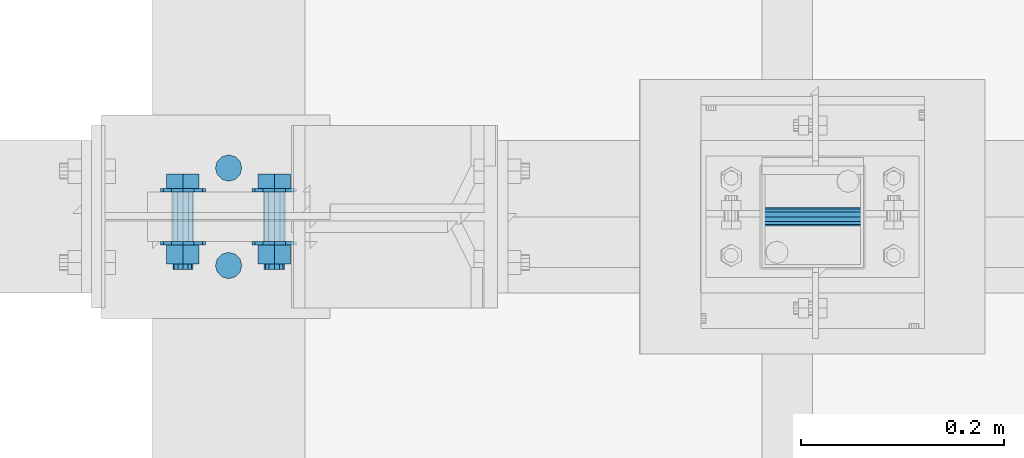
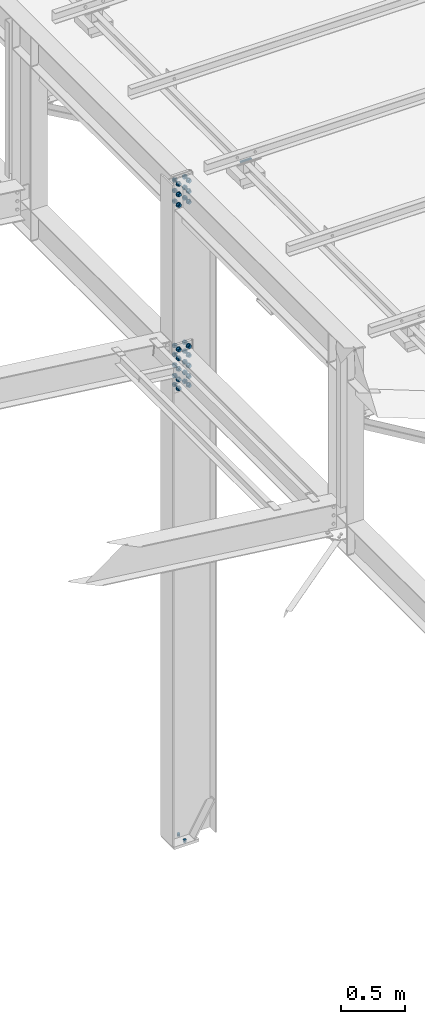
# One storey, part 320 of 3134: 4 mechanical fasteners, 4 elements without a shape of their own.
"""IFC2X3 building model written with IfcOpenShell, lengths in millimetres."""

from ifc_helpers import new_model, si_unit, frame, origin_with_axes, place, context, subcontext, project, spatial, faceted_brep, source, transform, mapped, material, type_object, element, aggregate, save


model = new_model("IFC2X3")

# Units and contexts
model_context = context("Model", 3, precision=1e-05, world=origin_with_axes())
body_context = subcontext(model_context, "Body", "Model", "MODEL_VIEW")
ifc_project = project(units=[si_unit("LENGTHUNIT", "METRE", prefix="MILLI"), si_unit("AREAUNIT", "SQUARE_METRE"), si_unit("VOLUMEUNIT", "CUBIC_METRE"), si_unit("MASSUNIT", "GRAM", prefix="KILO"), si_unit("TIMEUNIT", "SECOND"), si_unit("PLANEANGLEUNIT", "RADIAN"), si_unit("SOLIDANGLEUNIT", "STERADIAN"), si_unit("THERMODYNAMICTEMPERATUREUNIT", "DEGREE_CELSIUS"), si_unit("LUMINOUSINTENSITYUNIT", "LUMEN")], contexts=[model_context])

# Site, building, storey
site_placement = place(None, origin_with_axes())
site = spatial("IfcSite", under=ifc_project, at=site_placement, CompositionType="ELEMENT")
building_placement = place(site_placement, origin_with_axes())
building = spatial("IfcBuilding", under=site, at=building_placement, Name="Undefined", CompositionType="ELEMENT")
storey_placement = place(building_placement, origin_with_axes())
storey = spatial("IfcBuildingStorey", under=building, at=storey_placement, Name="Undefined", CompositionType="ELEMENT", Elevation=0.0)

# Assembly, mechanical fastener
assembly_1_placement = place(storey_placement, origin_with_axes())
assembly_1 = element("IfcElementAssembly", 1, at=assembly_1_placement, inside=storey, AssemblyPlace="NOTDEFINED", PredefinedType="RIGID_FRAME")
ifc_material_1 = material(Name="8.8")
mechanical_fastener_type = type_object("IfcMechanicalFastenerType", Name="Bolt assembly")
shared_shape_1 = source(origin_with_axes(), body_context, "Body", "Brep", [
    faceted_brep([(9.0, -50.0, 0.0), (7.79422863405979, -50.0, 4.50000000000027), (4.49999999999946, -50.0, 7.79422863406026), (-9.3270238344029e-13, -50.0, 9.0), (-4.50000000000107, -50.0, 7.79422863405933), (-7.79422863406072, -50.0, 4.49999999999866), (-9.0, -50.0, -1.86540476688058e-12), (-7.79422863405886, -50.0, -4.50000000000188), (-4.49999999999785, -50.0, -7.79422863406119), (2.78811514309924e-12, -50.0, -9.0), (4.50000000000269, -50.0, -7.7942286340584), (7.79422863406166, -50.0, -4.49999999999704), (7.79422863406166, 50.1, -4.49999999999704), (4.50000000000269, 50.1, -7.7942286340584), (2.78811514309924e-12, 50.1, -9.0), (-4.49999999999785, 50.1, -7.79422863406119), (-7.79422863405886, 50.1, -4.50000000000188), (-9.0, 50.1, -1.86540476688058e-12), (-7.79422863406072, 50.1, 4.49999999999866), (-4.50000000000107, 50.1, 7.79422863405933), (-9.3270238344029e-13, 50.1, 9.0), (4.49999999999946, 50.1, 7.79422863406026), (7.79422863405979, 50.1, 4.50000000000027), (9.0, 50.1, 0.0)], [[[0, 1, 2, 3, 4, 5, 6, 7, 8, 9, 10, 11]], [[12, 13, 14, 15, 16, 17, 18, 19, 20, 21, 22, 23]], [[0, 23, 22, 1]], [[1, 22, 21, 2]], [[2, 21, 20, 3]], [[3, 20, 19, 4]], [[4, 19, 18, 5]], [[5, 18, 17, 6]], [[6, 17, 16, 7]], [[7, 16, 15, 8]], [[8, 15, 14, 9]], [[9, 14, 13, 10]], [[10, 13, 12, 11]], [[11, 12, 23, 0]]]),
])
mechanical_fastener_1_placement = place(assembly_1_placement, frame((68125.0, 7650.0, 5830.0), z_axis=(0.0, 1.0, 0.0), x_axis=(0.0, 0.0, 1.0)))
mechanical_fastener_1 = element("IfcMechanicalFastener", 2, at=mechanical_fastener_1_placement, type_object=mechanical_fastener_type, material=ifc_material_1, Name="Bolt assembly", NominalDiameter=16.0, NominalLength=100.0, context=body_context, shape_type="MappedRepresentation", body=[
    mapped(shared_shape_1, transform((0.0, 0.0, 0.0))),
])
aggregate(assembly_1, [mechanical_fastener_1])

assembly_2_placement = place(storey_placement, origin_with_axes())
assembly_2 = element("IfcElementAssembly", 3, at=assembly_2_placement, inside=storey, Name="300", AssemblyPlace="NOTDEFINED", PredefinedType="RIGID_FRAME")
ifc_material_2 = material(Name="HR10.9")
shared_shape_2 = source(origin_with_axes(), body_context, "Body", "Brep", [
    faceted_brep([(18.475208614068, -61.8999996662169, 0.0), (9.23760430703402, -61.8999996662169, 16.0), (-9.23760430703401, -61.8999996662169, 16.0), (-18.475208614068, -61.8999996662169, 2.2625605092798e-15), (-9.23760430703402, -61.8999996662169, -16.0), (9.237604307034, -61.8999996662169, -16.0), (9.237604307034, -48.0000000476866, -16.0), (-9.23760430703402, -48.0000000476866, -16.0), (-18.475208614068, -48.0000000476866, 2.2625605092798e-15), (-9.23760430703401, -48.0000000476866, 16.0), (9.23760430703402, -48.0000000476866, 16.0), (18.475208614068, -48.0000000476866, 0.0), (10.0, -48.0000000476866, 0.0), (8.66025403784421, -48.0000000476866, 5.0000000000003), (4.9999999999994, -48.0000000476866, 8.66025403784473), (-1.03633598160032e-12, -48.0000000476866, 10.0), (-5.00000000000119, -48.0000000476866, 8.6602540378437), (-8.66025403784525, -48.0000000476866, 4.99999999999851), (-10.0, -48.0000000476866, -2.07267196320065e-12), (-8.66025403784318, -48.0000000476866, -5.00000000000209), (-4.99999999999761, -48.0000000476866, -8.66025403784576), (3.09790571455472e-12, -48.0000000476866, -10.0), (5.00000000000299, -48.0000000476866, -8.66025403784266), (8.66025403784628, -48.0000000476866, -4.99999999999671), (8.66025403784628, 31.9999999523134, -4.99999999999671), (5.00000000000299, 31.9999999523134, -8.66025403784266), (3.09790571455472e-12, 31.9999999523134, -10.0), (-4.99999999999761, 31.9999999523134, -8.66025403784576), (-8.66025403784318, 31.9999999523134, -5.00000000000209), (-10.0, 31.9999999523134, -2.07267196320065e-12), (-8.66025403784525, 31.9999999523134, 4.99999999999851), (-5.00000000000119, 31.9999999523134, 8.6602540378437), (-1.03633598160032e-12, 31.9999999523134, 10.0), (4.9999999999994, 31.9999999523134, 8.66025403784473), (8.66025403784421, 31.9999999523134, 5.0000000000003), (10.0, 31.9999999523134, 0.0), (22.0, -48.0000000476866, 0.0), (19.0525588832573, -48.0000000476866, 11.0000000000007), (10.9999999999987, -48.0000000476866, 19.0525588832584), (-2.27993915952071e-12, -48.0000000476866, 22.0), (-11.0000000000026, -48.0000000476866, 19.0525588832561), (-19.0525588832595, -48.0000000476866, 10.9999999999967), (-22.0, -48.0000000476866, -4.55987831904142e-12), (-19.052558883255, -48.0000000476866, -11.0000000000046), (-10.9999999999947, -48.0000000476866, -19.0525588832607), (6.81539257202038e-12, -48.0000000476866, -22.0), (11.0000000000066, -48.0000000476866, -19.0525588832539), (19.0525588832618, -48.0000000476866, -10.9999999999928), (19.0525588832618, -44.3000000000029, -10.9999999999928), (11.0000000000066, -44.3000000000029, -19.0525588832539), (6.81539257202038e-12, -44.3000000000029, -22.0), (-10.9999999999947, -44.3000000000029, -19.0525588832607), (-19.052558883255, -44.3000000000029, -11.0000000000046), (-22.0, -44.3000000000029, -4.55987831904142e-12), (-19.0525588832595, -44.3000000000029, 10.9999999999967), (-11.0000000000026, -44.3000000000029, 19.0525588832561), (-2.27993915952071e-12, -44.3000000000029, 22.0), (10.9999999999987, -44.3000000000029, 19.0525588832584), (19.0525588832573, -44.3000000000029, 11.0000000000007), (22.0, -44.3000000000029, 0.0), (22.0, 4.30000000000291, 0.0), (19.0525588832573, 4.30000000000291, 11.0000000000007), (10.9999999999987, 4.30000000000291, 19.0525588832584), (-2.27993915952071e-12, 4.30000000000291, 22.0), (-11.0000000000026, 4.30000000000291, 19.0525588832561), (-19.0525588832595, 4.30000000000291, 10.9999999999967), (-22.0, 4.30000000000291, -4.55987831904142e-12), (-19.052558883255, 4.30000000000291, -11.0000000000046), (-10.9999999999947, 4.30000000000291, -19.0525588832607), (6.81539257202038e-12, 4.30000000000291, -22.0), (11.0000000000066, 4.30000000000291, -19.0525588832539), (19.0525588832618, 4.30000000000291, -10.9999999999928), (19.0525588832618, 8.00000004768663, -10.9999999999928), (11.0000000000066, 8.00000004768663, -19.0525588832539), (6.81539257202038e-12, 8.00000004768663, -22.0), (-10.9999999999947, 8.00000004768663, -19.0525588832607), (-19.052558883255, 8.00000004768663, -11.0000000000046), (-22.0, 8.00000004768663, -4.55987831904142e-12), (-19.0525588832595, 8.00000004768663, 10.9999999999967), (-11.0000000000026, 8.00000004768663, 19.0525588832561), (-2.27993915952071e-12, 8.00000004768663, 22.0), (10.9999999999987, 8.00000004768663, 19.0525588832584), (19.0525588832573, 8.00000004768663, 11.0000000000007), (22.0, 8.00000004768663, 0.0), (18.475208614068, 8.00000004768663, 0.0), (9.23760430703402, 8.00000004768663, 16.0), (-9.23760430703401, 8.00000004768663, 16.0), (-18.475208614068, 8.00000004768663, 2.2625605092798e-15), (-9.23760430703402, 8.00000004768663, -16.0), (9.237604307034, 8.00000004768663, -16.0), (9.237604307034, 26.5499992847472, -16.0), (-9.23760430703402, 26.5499992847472, -16.0), (-18.475208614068, 26.5499992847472, 2.2625605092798e-15), (-9.23760430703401, 26.5499992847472, 16.0), (9.23760430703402, 26.5499992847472, 16.0), (18.475208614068, 26.5499992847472, 0.0)], [[[0, 1, 2, 3, 4, 5]], [[6, 7, 8, 9, 10, 11]], [[0, 11, 10, 1]], [[1, 10, 9, 2]], [[2, 9, 8, 3]], [[3, 8, 7, 4]], [[4, 7, 6, 5]], [[5, 6, 11, 0]], [[12, 13, 14, 15, 16, 17, 18, 19, 20, 21, 22, 23]], [[24, 25, 26, 27, 28, 29, 30, 31, 32, 33, 34, 35]], [[12, 35, 34, 13]], [[13, 34, 33, 14]], [[14, 33, 32, 15]], [[15, 32, 31, 16]], [[16, 31, 30, 17]], [[17, 30, 29, 18]], [[18, 29, 28, 19]], [[19, 28, 27, 20]], [[20, 27, 26, 21]], [[21, 26, 25, 22]], [[22, 25, 24, 23]], [[23, 24, 35, 12]], [[36, 37, 38, 39, 40, 41, 42, 43, 44, 45, 46, 47]], [[48, 49, 50, 51, 52, 53, 54, 55, 56, 57, 58, 59]], [[36, 59, 58, 37]], [[37, 58, 57, 38]], [[38, 57, 56, 39]], [[39, 56, 55, 40]], [[40, 55, 54, 41]], [[41, 54, 53, 42]], [[42, 53, 52, 43]], [[43, 52, 51, 44]], [[44, 51, 50, 45]], [[45, 50, 49, 46]], [[46, 49, 48, 47]], [[47, 48, 59, 36]], [[60, 61, 62, 63, 64, 65, 66, 67, 68, 69, 70, 71]], [[72, 73, 74, 75, 76, 77, 78, 79, 80, 81, 82, 83]], [[60, 83, 82, 61]], [[61, 82, 81, 62]], [[62, 81, 80, 63]], [[63, 80, 79, 64]], [[64, 79, 78, 65]], [[65, 78, 77, 66]], [[66, 77, 76, 67]], [[67, 76, 75, 68]], [[68, 75, 74, 69]], [[69, 74, 73, 70]], [[70, 73, 72, 71]], [[71, 72, 83, 60]], [[84, 85, 86, 87, 88, 89]], [[90, 91, 92, 93, 94, 95]], [[84, 95, 94, 85]], [[85, 94, 93, 86]], [[86, 93, 92, 87]], [[87, 92, 91, 88]], [[88, 91, 90, 89]], [[89, 90, 95, 84]]]),
    faceted_brep([(11.0, -24.3000001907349, 0.0), (9.52627944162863, -24.3000001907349, 5.50000000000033), (5.49999999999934, -24.3000001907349, 9.5262794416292), (-1.13996957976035e-12, -24.3000001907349, 11.0), (-5.50000000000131, -24.3000001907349, 9.52627944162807), (-9.52627944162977, -24.3000001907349, 5.49999999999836), (-11.0, -24.3000001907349, -2.27993915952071e-12), (-9.5262794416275, -24.3000001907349, -5.5000000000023), (-5.49999999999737, -24.3000001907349, -9.52627944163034), (3.40769628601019e-12, -24.3000001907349, -11.0), (5.50000000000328, -24.3000001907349, -9.52627944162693), (9.52627944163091, -24.3000001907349, -5.49999999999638), (9.52627944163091, -15.6999998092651, -5.49999999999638), (5.50000000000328, -15.6999998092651, -9.52627944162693), (3.40769628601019e-12, -15.6999998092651, -11.0), (-5.49999999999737, -15.6999998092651, -9.52627944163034), (-9.5262794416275, -15.6999998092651, -5.5000000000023), (-11.0, -15.6999998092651, -2.27993915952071e-12), (-9.52627944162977, -15.6999998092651, 5.49999999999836), (-5.50000000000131, -15.6999998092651, 9.52627944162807), (-1.13996957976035e-12, -15.6999998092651, 11.0), (5.49999999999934, -15.6999998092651, 9.5262794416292), (9.52627944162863, -15.6999998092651, 5.50000000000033), (11.0, -15.6999998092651, 0.0), (11.0, -44.2000000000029, 0.0), (9.52627944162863, -44.2000000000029, 5.50000000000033), (5.49999999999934, -44.2000000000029, 9.5262794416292), (-1.13996957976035e-12, -44.2000000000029, 11.0), (-5.50000000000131, -44.2000000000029, 9.52627944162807), (-9.52627944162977, -44.2000000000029, 5.49999999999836), (-11.0, -44.2000000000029, -2.27993915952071e-12), (-9.5262794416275, -44.2000000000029, -5.5000000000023), (-5.49999999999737, -44.2000000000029, -9.52627944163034), (3.40769628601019e-12, -44.2000000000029, -11.0), (5.50000000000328, -44.2000000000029, -9.52627944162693), (9.52627944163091, -44.2000000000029, -5.49999999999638), (9.52627944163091, -24.2000000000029, -5.49999999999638), (5.50000000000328, -24.2000000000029, -9.52627944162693), (3.40769628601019e-12, -24.2000000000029, -11.0), (-5.49999999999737, -24.2000000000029, -9.52627944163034), (-9.5262794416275, -24.2000000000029, -5.5000000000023), (-11.0, -24.2000000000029, -2.27993915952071e-12), (-9.52627944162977, -24.2000000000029, 5.49999999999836), (-5.50000000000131, -24.2000000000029, 9.52627944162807), (-1.13996957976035e-12, -24.2000000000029, 11.0), (5.49999999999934, -24.2000000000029, 9.5262794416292), (9.52627944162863, -24.2000000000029, 5.50000000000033), (11.0, -24.2000000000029, 0.0), (11.0, -15.7999999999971, 0.0), (9.52627944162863, -15.7999999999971, 5.50000000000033), (5.49999999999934, -15.7999999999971, 9.5262794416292), (-1.13996957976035e-12, -15.7999999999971, 11.0), (-5.50000000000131, -15.7999999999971, 9.52627944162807), (-9.52627944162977, -15.7999999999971, 5.49999999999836), (-11.0, -15.7999999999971, -2.27993915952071e-12), (-9.5262794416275, -15.7999999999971, -5.5000000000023), (-5.49999999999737, -15.7999999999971, -9.52627944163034), (3.40769628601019e-12, -15.7999999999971, -11.0), (5.50000000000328, -15.7999999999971, -9.52627944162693), (9.52627944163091, -15.7999999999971, -5.49999999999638), (9.52627944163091, 4.30000000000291, -5.49999999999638), (5.50000000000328, 4.30000000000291, -9.52627944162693), (3.40769628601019e-12, 4.30000000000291, -11.0), (-5.49999999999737, 4.30000000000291, -9.52627944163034), (-9.5262794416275, 4.30000000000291, -5.5000000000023), (-11.0, 4.30000000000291, -2.27993915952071e-12), (-9.52627944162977, 4.30000000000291, 5.49999999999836), (-5.50000000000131, 4.30000000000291, 9.52627944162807), (-1.13996957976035e-12, 4.30000000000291, 11.0), (5.49999999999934, 4.30000000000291, 9.5262794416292), (9.52627944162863, 4.30000000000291, 5.50000000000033), (11.0, 4.30000000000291, 0.0)], [[[0, 1, 2, 3, 4, 5, 6, 7, 8, 9, 10, 11]], [[12, 13, 14, 15, 16, 17, 18, 19, 20, 21, 22, 23]], [[0, 23, 22, 1]], [[1, 22, 21, 2]], [[2, 21, 20, 3]], [[3, 20, 19, 4]], [[4, 19, 18, 5]], [[5, 18, 17, 6]], [[6, 17, 16, 7]], [[7, 16, 15, 8]], [[8, 15, 14, 9]], [[9, 14, 13, 10]], [[10, 13, 12, 11]], [[11, 12, 23, 0]], [[24, 25, 26, 27, 28, 29, 30, 31, 32, 33, 34, 35]], [[36, 37, 38, 39, 40, 41, 42, 43, 44, 45, 46, 47]], [[24, 47, 46, 25]], [[25, 46, 45, 26]], [[26, 45, 44, 27]], [[27, 44, 43, 28]], [[28, 43, 42, 29]], [[29, 42, 41, 30]], [[30, 41, 40, 31]], [[31, 40, 39, 32]], [[32, 39, 38, 33]], [[33, 38, 37, 34]], [[34, 37, 36, 35]], [[35, 36, 47, 24]], [[48, 49, 50, 51, 52, 53, 54, 55, 56, 57, 58, 59]], [[60, 61, 62, 63, 64, 65, 66, 67, 68, 69, 70, 71]], [[48, 71, 70, 49]], [[49, 70, 69, 50]], [[50, 69, 68, 51]], [[51, 68, 67, 52]], [[52, 67, 66, 53]], [[53, 66, 65, 54]], [[54, 65, 64, 55]], [[55, 64, 63, 56]], [[56, 63, 62, 57]], [[57, 62, 61, 58]], [[58, 61, 60, 59]], [[59, 60, 71, 48]]]),
])
mechanical_fastener_2_placement = place(assembly_2_placement, frame((67550.0000000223, 7630.0, 5841.49999998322), z_axis=(-1.0, 0.0, 0.0), x_axis=(0.0, 0.0, -1.0)))
mechanical_fastener_2 = element("IfcMechanicalFastener", 4, at=mechanical_fastener_2_placement, type_object=mechanical_fastener_type, material=ifc_material_2, Name="Bolt assembly", NominalDiameter=20.0, NominalLength=80.0, context=body_context, shape_type="MappedRepresentation", body=[
    mapped(shared_shape_2, transform((0.0, 0.0, -45.0))),
    mapped(shared_shape_2, transform((100.0, 0.0, -45.0))),
    mapped(shared_shape_2, transform((200.0, 0.0, -45.0))),
    mapped(shared_shape_2, transform((0.0, 0.0, 45.0))),
    mapped(shared_shape_2, transform((100.0, 0.0, 45.0))),
    mapped(shared_shape_2, transform((200.0, 0.0, 45.0))),
])
aggregate(assembly_2, [mechanical_fastener_2])

assembly_3_placement = place(storey_placement, origin_with_axes())
assembly_3 = element("IfcElementAssembly", 5, at=assembly_3_placement, inside=storey, Name="300", AssemblyPlace="NOTDEFINED", PredefinedType="RIGID_FRAME")
shared_shape_3 = source(origin_with_axes(), body_context, "Body", "Brep", [
    faceted_brep([(18.475208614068, -66.1999996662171, 0.0), (9.23760430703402, -66.1999996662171, 16.0), (-9.23760430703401, -66.1999996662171, 16.0), (-18.475208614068, -66.1999996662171, 2.2625605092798e-15), (-9.23760430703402, -66.1999996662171, -16.0), (9.237604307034, -66.1999996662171, -16.0), (9.237604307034, -52.3000000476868, -16.0), (-9.23760430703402, -52.3000000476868, -16.0), (-18.475208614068, -52.3000000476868, 2.2625605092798e-15), (-9.23760430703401, -52.3000000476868, 16.0), (9.23760430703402, -52.3000000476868, 16.0), (18.475208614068, -52.3000000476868, 0.0), (10.0, -52.3000000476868, 0.0), (8.66025403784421, -52.3000000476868, 5.0000000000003), (4.9999999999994, -52.3000000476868, 8.66025403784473), (-1.03633598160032e-12, -52.3000000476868, 10.0), (-5.00000000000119, -52.3000000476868, 8.6602540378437), (-8.66025403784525, -52.3000000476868, 4.99999999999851), (-10.0, -52.3000000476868, -2.07267196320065e-12), (-8.66025403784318, -52.3000000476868, -5.00000000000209), (-4.99999999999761, -52.3000000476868, -8.66025403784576), (3.09790571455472e-12, -52.3000000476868, -10.0), (5.00000000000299, -52.3000000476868, -8.66025403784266), (8.66025403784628, -52.3000000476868, -4.99999999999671), (8.66025403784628, 27.6999999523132, -4.99999999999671), (5.00000000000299, 27.6999999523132, -8.66025403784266), (3.09790571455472e-12, 27.6999999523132, -10.0), (-4.99999999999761, 27.6999999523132, -8.66025403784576), (-8.66025403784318, 27.6999999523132, -5.00000000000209), (-10.0, 27.6999999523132, -2.07267196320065e-12), (-8.66025403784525, 27.6999999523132, 4.99999999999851), (-5.00000000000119, 27.6999999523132, 8.6602540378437), (-1.03633598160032e-12, 27.6999999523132, 10.0), (4.9999999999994, 27.6999999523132, 8.66025403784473), (8.66025403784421, 27.6999999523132, 5.0000000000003), (10.0, 27.6999999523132, 0.0), (22.0, -52.3000000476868, 0.0), (19.0525588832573, -52.3000000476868, 11.0000000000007), (10.9999999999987, -52.3000000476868, 19.0525588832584), (-2.27993915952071e-12, -52.3000000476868, 22.0), (-11.0000000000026, -52.3000000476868, 19.0525588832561), (-19.0525588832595, -52.3000000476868, 10.9999999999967), (-22.0, -52.3000000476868, -4.55987831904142e-12), (-19.052558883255, -52.3000000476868, -11.0000000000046), (-10.9999999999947, -52.3000000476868, -19.0525588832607), (6.81539257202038e-12, -52.3000000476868, -22.0), (11.0000000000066, -52.3000000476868, -19.0525588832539), (19.0525588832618, -52.3000000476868, -10.9999999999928), (19.0525588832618, -48.6000000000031, -10.9999999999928), (11.0000000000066, -48.6000000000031, -19.0525588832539), (6.81539257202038e-12, -48.6000000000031, -22.0), (-10.9999999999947, -48.6000000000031, -19.0525588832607), (-19.052558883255, -48.6000000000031, -11.0000000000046), (-22.0, -48.6000000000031, -4.55987831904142e-12), (-19.0525588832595, -48.6000000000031, 10.9999999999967), (-11.0000000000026, -48.6000000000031, 19.0525588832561), (-2.27993915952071e-12, -48.6000000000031, 22.0), (10.9999999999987, -48.6000000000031, 19.0525588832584), (19.0525588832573, -48.6000000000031, 11.0000000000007), (22.0, -48.6000000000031, 0.0), (22.0, 0.0, 0.0), (19.0525588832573, 0.0, 11.0000000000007), (10.9999999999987, 0.0, 19.0525588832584), (-2.27993915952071e-12, 0.0, 22.0), (-11.0000000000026, 0.0, 19.0525588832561), (-19.0525588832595, 0.0, 10.9999999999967), (-22.0, 0.0, -4.55987831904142e-12), (-19.052558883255, 0.0, -11.0000000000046), (-10.9999999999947, 0.0, -19.0525588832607), (6.81539257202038e-12, 0.0, -22.0), (11.0000000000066, 0.0, -19.0525588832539), (19.0525588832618, 0.0, -10.9999999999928), (19.0525588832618, 3.70000004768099, -10.9999999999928), (11.0000000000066, 3.70000004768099, -19.0525588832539), (6.81539257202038e-12, 3.70000004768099, -22.0), (-10.9999999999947, 3.70000004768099, -19.0525588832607), (-19.052558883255, 3.70000004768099, -11.0000000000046), (-22.0, 3.70000004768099, -4.55987831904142e-12), (-19.0525588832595, 3.70000004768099, 10.9999999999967), (-11.0000000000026, 3.70000004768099, 19.0525588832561), (-2.27993915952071e-12, 3.70000004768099, 22.0), (10.9999999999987, 3.70000004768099, 19.0525588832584), (19.0525588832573, 3.70000004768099, 11.0000000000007), (22.0, 3.70000004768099, 0.0), (18.475208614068, 3.70000004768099, 0.0), (9.23760430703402, 3.70000004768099, 16.0), (-9.23760430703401, 3.70000004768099, 16.0), (-18.475208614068, 3.70000004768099, 2.2625605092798e-15), (-9.23760430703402, 3.70000004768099, -16.0), (9.237604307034, 3.70000004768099, -16.0), (9.237604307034, 22.2499992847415, -16.0), (-9.23760430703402, 22.2499992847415, -16.0), (-18.475208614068, 22.2499992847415, 2.2625605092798e-15), (-9.23760430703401, 22.2499992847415, 16.0), (9.23760430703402, 22.2499992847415, 16.0), (18.475208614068, 22.2499992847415, 0.0)], [[[0, 1, 2, 3, 4, 5]], [[6, 7, 8, 9, 10, 11]], [[0, 11, 10, 1]], [[1, 10, 9, 2]], [[2, 9, 8, 3]], [[3, 8, 7, 4]], [[4, 7, 6, 5]], [[5, 6, 11, 0]], [[12, 13, 14, 15, 16, 17, 18, 19, 20, 21, 22, 23]], [[24, 25, 26, 27, 28, 29, 30, 31, 32, 33, 34, 35]], [[12, 35, 34, 13]], [[13, 34, 33, 14]], [[14, 33, 32, 15]], [[15, 32, 31, 16]], [[16, 31, 30, 17]], [[17, 30, 29, 18]], [[18, 29, 28, 19]], [[19, 28, 27, 20]], [[20, 27, 26, 21]], [[21, 26, 25, 22]], [[22, 25, 24, 23]], [[23, 24, 35, 12]], [[36, 37, 38, 39, 40, 41, 42, 43, 44, 45, 46, 47]], [[48, 49, 50, 51, 52, 53, 54, 55, 56, 57, 58, 59]], [[36, 59, 58, 37]], [[37, 58, 57, 38]], [[38, 57, 56, 39]], [[39, 56, 55, 40]], [[40, 55, 54, 41]], [[41, 54, 53, 42]], [[42, 53, 52, 43]], [[43, 52, 51, 44]], [[44, 51, 50, 45]], [[45, 50, 49, 46]], [[46, 49, 48, 47]], [[47, 48, 59, 36]], [[60, 61, 62, 63, 64, 65, 66, 67, 68, 69, 70, 71]], [[72, 73, 74, 75, 76, 77, 78, 79, 80, 81, 82, 83]], [[60, 83, 82, 61]], [[61, 82, 81, 62]], [[62, 81, 80, 63]], [[63, 80, 79, 64]], [[64, 79, 78, 65]], [[65, 78, 77, 66]], [[66, 77, 76, 67]], [[67, 76, 75, 68]], [[68, 75, 74, 69]], [[69, 74, 73, 70]], [[70, 73, 72, 71]], [[71, 72, 83, 60]], [[84, 85, 86, 87, 88, 89]], [[90, 91, 92, 93, 94, 95]], [[84, 95, 94, 85]], [[85, 94, 93, 86]], [[86, 93, 92, 87]], [[87, 92, 91, 88]], [[88, 91, 90, 89]], [[89, 90, 95, 84]]]),
    faceted_brep([(11.0, -28.6000001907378, 0.0), (9.52627944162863, -28.6000001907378, 5.50000000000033), (5.49999999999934, -28.6000001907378, 9.5262794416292), (-1.13996957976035e-12, -28.6000001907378, 11.0), (-5.50000000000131, -28.6000001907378, 9.52627944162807), (-9.52627944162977, -28.6000001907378, 5.49999999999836), (-11.0, -28.6000001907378, -2.27993915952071e-12), (-9.5262794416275, -28.6000001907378, -5.5000000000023), (-5.49999999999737, -28.6000001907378, -9.52627944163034), (3.40769628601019e-12, -28.6000001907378, -11.0), (5.50000000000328, -28.6000001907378, -9.52627944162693), (9.52627944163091, -28.6000001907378, -5.49999999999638), (9.52627944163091, -20.0, -5.49999999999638), (5.50000000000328, -20.0, -9.52627944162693), (3.40769628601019e-12, -20.0, -11.0), (-5.49999999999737, -20.0, -9.52627944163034), (-9.5262794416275, -20.0, -5.5000000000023), (-11.0, -20.0, -2.27993915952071e-12), (-9.52627944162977, -20.0, 5.49999999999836), (-5.50000000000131, -20.0, 9.52627944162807), (-1.13996957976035e-12, -20.0, 11.0), (5.49999999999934, -20.0, 9.5262794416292), (9.52627944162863, -20.0, 5.50000000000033), (11.0, -20.0, 0.0), (11.0, -20.1000000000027, 0.0), (9.52627944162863, -20.1000000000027, 5.50000000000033), (5.49999999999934, -20.1000000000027, 9.5262794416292), (-1.13996957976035e-12, -20.1000000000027, 11.0), (-5.50000000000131, -20.1000000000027, 9.52627944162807), (-9.52627944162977, -20.1000000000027, 5.49999999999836), (-11.0, -20.1000000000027, -2.27993915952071e-12), (-9.5262794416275, -20.1000000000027, -5.5000000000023), (-5.49999999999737, -20.1000000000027, -9.52627944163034), (3.40769628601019e-12, -20.1000000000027, -11.0), (5.50000000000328, -20.1000000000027, -9.52627944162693), (9.52627944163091, -20.1000000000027, -5.49999999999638), (9.52627944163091, 0.0, -5.49999999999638), (5.50000000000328, 0.0, -9.52627944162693), (3.40769628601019e-12, 0.0, -11.0), (-5.49999999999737, 0.0, -9.52627944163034), (-9.5262794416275, 0.0, -5.5000000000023), (-11.0, 0.0, -2.27993915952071e-12), (-9.52627944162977, 0.0, 5.49999999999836), (-5.50000000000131, 0.0, 9.52627944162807), (-1.13996957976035e-12, 0.0, 11.0), (5.49999999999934, 0.0, 9.5262794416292), (9.52627944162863, 0.0, 5.50000000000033), (11.0, 0.0, 0.0), (11.0, -48.5000000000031, 0.0), (9.52627944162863, -48.5000000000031, 5.50000000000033), (5.49999999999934, -48.5000000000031, 9.5262794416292), (-1.13996957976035e-12, -48.5000000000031, 11.0), (-5.50000000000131, -48.5000000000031, 9.52627944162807), (-9.52627944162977, -48.5000000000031, 5.49999999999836), (-11.0, -48.5000000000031, -2.27993915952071e-12), (-9.5262794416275, -48.5000000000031, -5.5000000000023), (-5.49999999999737, -48.5000000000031, -9.52627944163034), (3.40769628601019e-12, -48.5000000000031, -11.0), (5.50000000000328, -48.5000000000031, -9.52627944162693), (9.52627944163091, -48.5000000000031, -5.49999999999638), (9.52627944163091, -28.5000000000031, -5.49999999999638), (5.50000000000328, -28.5000000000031, -9.52627944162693), (3.40769628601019e-12, -28.5000000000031, -11.0), (-5.49999999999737, -28.5000000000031, -9.52627944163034), (-9.5262794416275, -28.5000000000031, -5.5000000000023), (-11.0, -28.5000000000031, -2.27993915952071e-12), (-9.52627944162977, -28.5000000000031, 5.49999999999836), (-5.50000000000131, -28.5000000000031, 9.52627944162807), (-1.13996957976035e-12, -28.5000000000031, 11.0), (5.49999999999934, -28.5000000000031, 9.5262794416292), (9.52627944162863, -28.5000000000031, 5.50000000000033), (11.0, -28.5000000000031, 0.0)], [[[0, 1, 2, 3, 4, 5, 6, 7, 8, 9, 10, 11]], [[12, 13, 14, 15, 16, 17, 18, 19, 20, 21, 22, 23]], [[0, 23, 22, 1]], [[1, 22, 21, 2]], [[2, 21, 20, 3]], [[3, 20, 19, 4]], [[4, 19, 18, 5]], [[5, 18, 17, 6]], [[6, 17, 16, 7]], [[7, 16, 15, 8]], [[8, 15, 14, 9]], [[9, 14, 13, 10]], [[10, 13, 12, 11]], [[11, 12, 23, 0]], [[24, 25, 26, 27, 28, 29, 30, 31, 32, 33, 34, 35]], [[36, 37, 38, 39, 40, 41, 42, 43, 44, 45, 46, 47]], [[24, 47, 46, 25]], [[25, 46, 45, 26]], [[26, 45, 44, 27]], [[27, 44, 43, 28]], [[28, 43, 42, 29]], [[29, 42, 41, 30]], [[30, 41, 40, 31]], [[31, 40, 39, 32]], [[32, 39, 38, 33]], [[33, 38, 37, 34]], [[34, 37, 36, 35]], [[35, 36, 47, 24]], [[48, 49, 50, 51, 52, 53, 54, 55, 56, 57, 58, 59]], [[60, 61, 62, 63, 64, 65, 66, 67, 68, 69, 70, 71]], [[48, 71, 70, 49]], [[49, 70, 69, 50]], [[50, 69, 68, 51]], [[51, 68, 67, 52]], [[52, 67, 66, 53]], [[53, 66, 65, 54]], [[54, 65, 64, 55]], [[55, 64, 63, 56]], [[56, 63, 62, 57]], [[57, 62, 61, 58]], [[58, 61, 60, 59]], [[59, 60, 71, 48]]]),
])
mechanical_fastener_3_placement = place(assembly_3_placement, frame((67550.000000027, 7625.7, 4273.49999998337), z_axis=(-1.0, 0.0, 0.0), x_axis=(0.0, 0.0, -1.0)))
mechanical_fastener_3 = element("IfcMechanicalFastener", 6, at=mechanical_fastener_3_placement, type_object=mechanical_fastener_type, material=ifc_material_2, Name="Bolt assembly", NominalDiameter=20.0, NominalLength=80.0, context=body_context, shape_type="MappedRepresentation", body=[
    mapped(shared_shape_3, transform((0.0, 0.0, -45.0))),
    mapped(shared_shape_3, transform((85.0, 0.0, -45.0))),
    mapped(shared_shape_3, transform((185.0, 0.0, -45.0))),
    mapped(shared_shape_3, transform((285.0, 0.0, -45.0))),
    mapped(shared_shape_3, transform((370.0, 0.0, -45.0))),
    mapped(shared_shape_3, transform((0.0, 0.0, 45.0))),
    mapped(shared_shape_3, transform((85.0, 0.0, 45.0))),
    mapped(shared_shape_3, transform((185.0, 0.0, 45.0))),
    mapped(shared_shape_3, transform((285.0, 0.0, 45.0))),
    mapped(shared_shape_3, transform((370.0, 0.0, 45.0))),
])
aggregate(assembly_3, [mechanical_fastener_3])

assembly_4_placement = place(storey_placement, origin_with_axes())
assembly_4 = element("IfcElementAssembly", 7, at=assembly_4_placement, inside=storey, Name="IPE400", AssemblyPlace="NOTDEFINED", PredefinedType="RIGID_FRAME")
shared_shape_4 = source(origin_with_axes(), body_context, "Body", "Brep", [
    faceted_brep([(13.0, -25.000000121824, 0.0), (11.2583302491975, -25.000000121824, 6.50000000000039), (6.49999999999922, -25.000000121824, 11.2583302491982), (-1.34723677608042e-12, -25.000000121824, 13.0), (-6.50000000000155, -25.000000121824, 11.2583302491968), (-11.2583302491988, -25.000000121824, 6.49999999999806), (-13.0, -25.000000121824, -2.69447355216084e-12), (-11.2583302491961, -25.000000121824, -6.50000000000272), (-6.4999999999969, -25.000000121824, -11.2583302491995), (4.02727742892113e-12, -25.000000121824, -13.0), (6.50000000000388, -25.000000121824, -11.2583302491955), (11.2583302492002, -25.000000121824, -6.49999999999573), (11.2583302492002, 0.100000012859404, -6.49999999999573), (6.50000000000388, 0.100000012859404, -11.2583302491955), (4.02727742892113e-12, 0.100000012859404, -13.0), (-6.4999999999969, 0.100000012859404, -11.2583302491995), (-11.2583302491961, 0.100000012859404, -6.50000000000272), (-13.0, 0.100000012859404, -2.69447355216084e-12), (-11.2583302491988, 0.100000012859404, 6.49999999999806), (-6.50000000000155, 0.100000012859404, 11.2583302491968), (-1.34723677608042e-12, 0.100000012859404, 13.0), (6.49999999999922, 0.100000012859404, 11.2583302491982), (11.2583302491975, 0.100000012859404, 6.50000000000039), (13.0, 0.100000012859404, 0.0)], [[[0, 1, 2, 3, 4, 5, 6, 7, 8, 9, 10, 11]], [[12, 13, 14, 15, 16, 17, 18, 19, 20, 21, 22, 23]], [[0, 23, 22, 1]], [[1, 22, 21, 2]], [[2, 21, 20, 3]], [[3, 20, 19, 4]], [[4, 19, 18, 5]], [[5, 18, 17, 6]], [[6, 17, 16, 7]], [[7, 16, 15, 8]], [[8, 15, 14, 9]], [[9, 14, 13, 10]], [[10, 13, 12, 11]], [[11, 12, 23, 0]]]),
])
mechanical_fastener_4_placement = place(assembly_4_placement, frame((67880.0, 7649.99999991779, -374.999999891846), z_axis=(0.0, 1.0, 0.0), x_axis=(-1.0, 0.0, 0.0)))
mechanical_fastener_4 = element("IfcMechanicalFastener", 8, at=mechanical_fastener_4_placement, type_object=mechanical_fastener_type, material=ifc_material_1, Name="Bolt assembly", NominalDiameter=24.0, NominalLength=25.0, context=body_context, shape_type="MappedRepresentation", body=[
    mapped(shared_shape_4, transform((330.0, 0.0, -48.0))),
    mapped(shared_shape_4, transform((330.0, 0.0, 48.0))),
])
aggregate(assembly_4, [mechanical_fastener_4])

save(model, "model.ifc")
